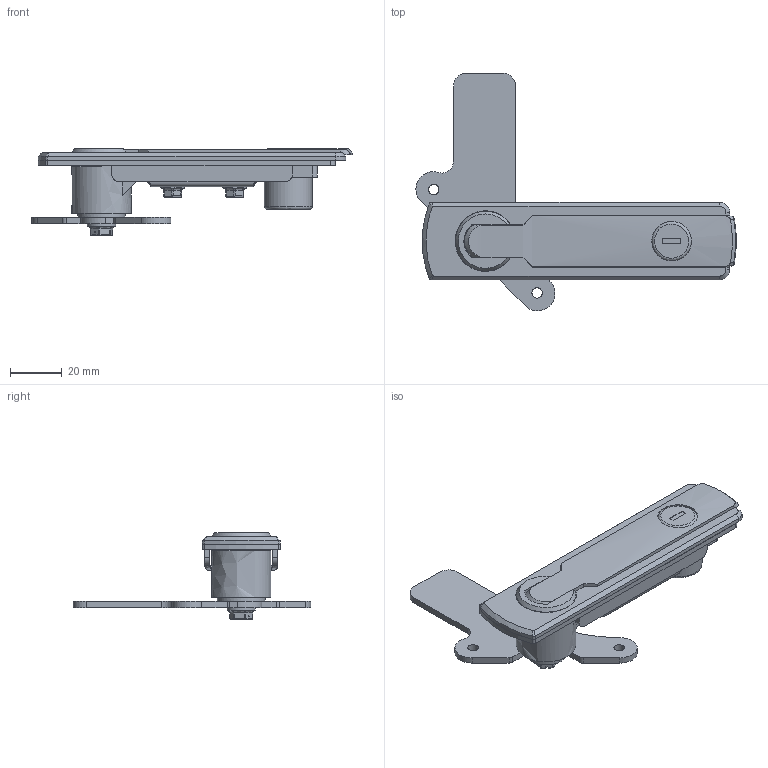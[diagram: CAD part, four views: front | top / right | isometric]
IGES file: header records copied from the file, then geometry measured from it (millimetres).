
Global section: file name: DR_MS751-2; native system: Autodesk Inventor 2015; preprocessor: unknown; author: Administrator; date: 20170801.150525; units: millimetre
Bounding box: 123.82 x 91.91 x 33.5 mm (x, y, z)
Volume: 39521.2 mm3; surface area: 37986.1 mm2
Topology: 12 solids, 12 shells, 530 faces, 1371 edges, 885 vertices
Faces by surface type: bspline 530
